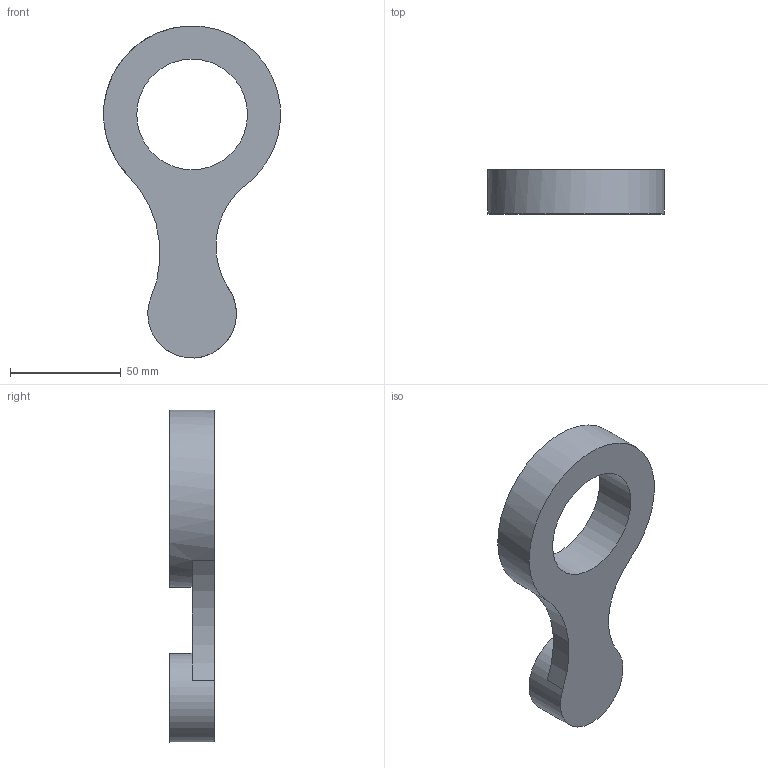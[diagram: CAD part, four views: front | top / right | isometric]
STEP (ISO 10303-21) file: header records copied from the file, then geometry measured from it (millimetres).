
FILE_DESCRIPTION(/* description */ (''),/* implementation_level */ '2;1');
FILE_NAME(/* name */ 'E:\OneDrive\Desktop\HGC_Tangency_04_2021\3D CAD Models\Task_5_HGC_Tangency_v1.stp',/* time_stamp */ '2021-04-10T20:31:57+01:00',/* author */ ('hunte'),/* organization */ (''),/* preprocessor_version */ 'ST-DEVELOPER v18.1',/* originating_system */ 'Autodesk Inventor 2020',/* authorisation */ '');
FILE_SCHEMA (('AUTOMOTIVE_DESIGN { 1 0 10303 214 3 1 1 }'));
Length unit declared in the file: millimetre
Products named in the file (1): Task_5_HGC_Tangency_v1
Bounding box: 79.89 x 20 x 149.93 mm (x, y, z)
Volume: 96195.7 mm3; surface area: 21380.8 mm2
Topology: 1 solids, 1 shells, 9 faces, 23 edges, 16 vertices
Faces by surface type: cylinder 5, plane 4
Full cylindrical faces by diameter (mm): 40 x1, 50 x1, 80 x1
Entity records: 334 total; most frequent: DIRECTION 59, CARTESIAN_POINT 49, ORIENTED_EDGE 46, AXIS2_PLACEMENT_3D 26, EDGE_CURVE 23, CIRCLE 16, VERTEX_POINT 16, EDGE_LOOP 11
